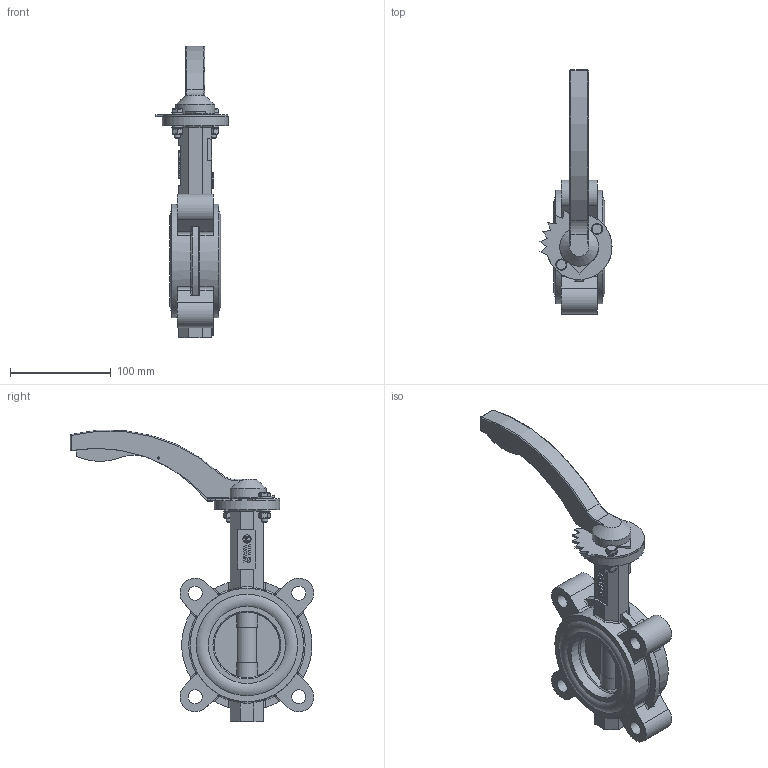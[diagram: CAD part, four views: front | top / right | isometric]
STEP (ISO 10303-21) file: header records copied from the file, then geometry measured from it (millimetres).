
FILE_DESCRIPTION(('STEP AP242'), '1');
FILE_NAME('Ïîâîðîòíûé çàòâîð ïîä ýëåêòðîïðèâîä', '', ('UNSPECIFIED'), ('UNSPECIFIED'), 'C3D Converter', 'C3D Toolkit', '');
FILE_SCHEMA(('AP242_MANAGED_MODEL_BASED_3D_ENGINEERING_MIM_LF { 1 0 10303 442 1 1 4 }'));
Length unit declared in the file: millimetre
Products named in the file (14): П
Assembly tree (20 placements, depth 3):
  (unnamed)
    (unnamed)
    П  x2
    (unnamed)
    (unnamed)
    (unnamed)
    (unnamed)
      (unnamed)
      (unnamed)
      (unnamed)
    (unnamed)  x2
    (unnamed)  x4
    (unnamed)  x2
    (unnamed)  x2
Bounding box: 71.39 x 241.21 x 288.61 mm (x, y, z)
Volume: 643337.1 mm3; surface area: 199494.7 mm2
Topology: 19 solids, 19 shells, 687 faces, 1741 edges, 1117 vertices
Faces by surface type: plane 307, cylinder 152, extrusion 151, torus 40, cone 18, bspline 10, sphere 9
Full cylindrical faces by diameter (mm): 2 x2, 3 x2, 4.917 x2, 6 x4, 6.6 x4, 7 x6, 8.223 x1, 11 x4, 13.835 x4, 14 x5, 15.4 x1, 19.799 x5, 22.087 x4, 22.627 x1, 65 x2, 67.275 x2, 76.375 x2, 88.354 x4, 100.333 x4, 112.283 x2
Entity records: 26833 total; most frequent: CARTESIAN_POINT 9185, ORIENTED_EDGE 3140, DIRECTION 2617, EDGE_CURVE 1570, VERTEX_POINT 1057, VECTOR 949, AXIS2_PLACEMENT_3D 834, LINE 798
